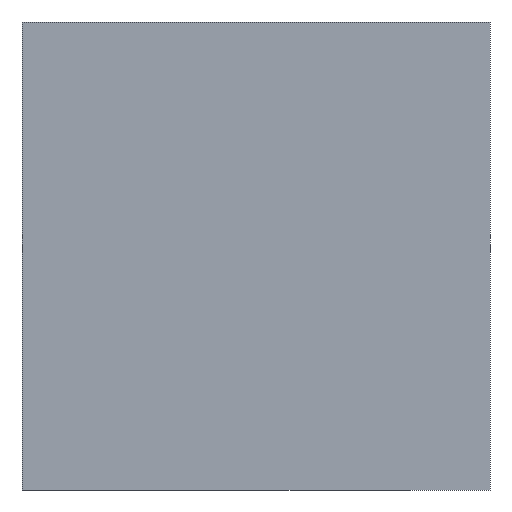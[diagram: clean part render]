
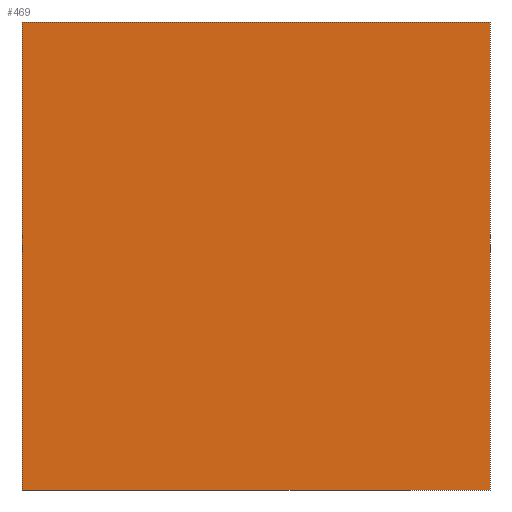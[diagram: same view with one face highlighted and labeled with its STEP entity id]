
A CAD part, left-side view. The second image highlights one B-rep face of the part: STEP entity #469.
In plain terms, the highlighted planar face has unit normal (-1, 0, 0).
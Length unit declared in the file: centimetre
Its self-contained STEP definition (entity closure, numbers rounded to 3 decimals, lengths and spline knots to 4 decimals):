
#13 = LINE ( 'NONE', #269, #120 ) ;
#16 = CARTESIAN_POINT ( 'NONE',  ( 0., 1000., 1000. ) ) ;
#18 = CARTESIAN_POINT ( 'NONE',  ( 0., 1000., 1000. ) ) ;
#48 = DIRECTION ( 'NONE',  ( 0., 0., -1. ) ) ;
#51 = CARTESIAN_POINT ( 'NONE',  ( 0., 1000., 1000. ) ) ;
#62 = CARTESIAN_POINT ( 'NONE',  ( 0., 0., 1000. ) ) ;
#77 = DIRECTION ( 'NONE',  ( 0., 0., -1. ) ) ;
#93 = AXIS2_PLACEMENT_3D ( 'NONE', #16, #164, #419 ) ;
#95 = DIRECTION ( 'NONE',  ( 0., -1., 0. ) ) ;
#108 = ORIENTED_EDGE ( 'NONE', *, *, #393, .F. ) ;
#113 = VECTOR ( 'NONE', #48, 100. ) ;
#119 = LINE ( 'NONE', #51, #322 ) ;
#120 = VECTOR ( 'NONE', #312, 100. ) ;
#157 = LINE ( 'NONE', #306, #113 ) ;
#164 = DIRECTION ( 'NONE',  ( 1., 0., 0. ) ) ;
#214 = ORIENTED_EDGE ( 'NONE', *, *, #249, .F. ) ;
#249 = EDGE_CURVE ( 'NONE', #291, #342, #319, .T. ) ;
#269 = CARTESIAN_POINT ( 'NONE',  ( 0., 1000., 0. ) ) ;
#275 = CARTESIAN_POINT ( 'NONE',  ( 0., 0., 0. ) ) ;
#291 = VERTEX_POINT ( 'NONE', #18 ) ;
#306 = CARTESIAN_POINT ( 'NONE',  ( 0., 0., 1000. ) ) ;
#312 = DIRECTION ( 'NONE',  ( 0., -1., 0. ) ) ;
#319 = LINE ( 'NONE', #357, #359 ) ;
#322 = VECTOR ( 'NONE', #77, 100. ) ;
#342 = VERTEX_POINT ( 'NONE', #62 ) ;
#351 = CARTESIAN_POINT ( 'NONE',  ( 0., 1000., 0. ) ) ;
#357 = CARTESIAN_POINT ( 'NONE',  ( 0., 1000., 1000. ) ) ;
#359 = VECTOR ( 'NONE', #95, 100. ) ;
#365 = ORIENTED_EDGE ( 'NONE', *, *, #385, .T. ) ;
#368 = ORIENTED_EDGE ( 'NONE', *, *, #399, .T. ) ;
#377 = VERTEX_POINT ( 'NONE', #275 ) ;
#385 = EDGE_CURVE ( 'NONE', #291, #395, #119, .T. ) ;
#393 = EDGE_CURVE ( 'NONE', #342, #377, #157, .T. ) ;
#395 = VERTEX_POINT ( 'NONE', #351 ) ;
#399 = EDGE_CURVE ( 'NONE', #395, #377, #13, .T. ) ;
#409 = EDGE_LOOP ( 'NONE', ( #368, #108, #214, #365 ) ) ;
#419 = DIRECTION ( 'NONE',  ( 0., 0., -1. ) ) ;
#423 = PLANE ( 'NONE',  #93 ) ;
#469 = ADVANCED_FACE ( 'NONE', ( #471 ), #423, .F. ) ;
#471 = FACE_OUTER_BOUND ( 'NONE', #409, .T. ) ;
